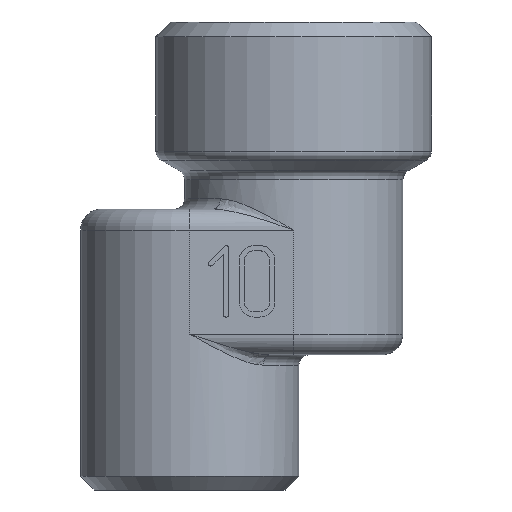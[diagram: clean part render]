
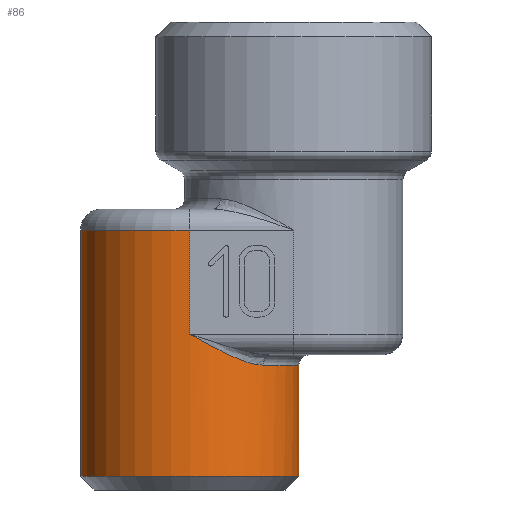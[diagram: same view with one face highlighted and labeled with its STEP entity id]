
A CAD part, left-side view. The second image highlights one B-rep face of the part: STEP entity #86.
In plain terms, the highlighted cylindrical face has radius 10.5 mm (diameter 21 mm), a full revolution.
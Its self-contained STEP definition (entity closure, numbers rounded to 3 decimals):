
#86=ADVANCED_FACE('',(#423,#425),#427,.T.);
#423=FACE_BOUND('',#424,.T.);
#424=EDGE_LOOP('',(#1753,#1754,#1755,#1756,#1757,#1758));
#425=FACE_OUTER_BOUND('',#426,.T.);
#426=EDGE_LOOP('',(#1759));
#427=CYLINDRICAL_SURFACE('',#428,10.5);
#428=AXIS2_PLACEMENT_3D('',#429,#430,#431);
#429=CARTESIAN_POINT('',(0.,0.,0.));
#430=DIRECTION('',(0.,0.,1.));
#431=DIRECTION('',(-1.,0.,0.));
#1753=ORIENTED_EDGE('',*,*,#2174,.F.);
#1754=ORIENTED_EDGE('',*,*,#2175,.F.);
#1755=ORIENTED_EDGE('',*,*,#2176,.F.);
#1756=ORIENTED_EDGE('',*,*,#2177,.F.);
#1757=ORIENTED_EDGE('',*,*,#2063,.T.);
#1758=ORIENTED_EDGE('',*,*,#2178,.F.);
#1759=ORIENTED_EDGE('',*,*,#2179,.T.);
#2063=EDGE_CURVE('',#2327,#2324,#2328,.T.);
#2174=EDGE_CURVE('',#2508,#2509,#2510,.T.);
#2175=EDGE_CURVE('',#2511,#2508,#2512,.T.);
#2176=EDGE_CURVE('',#2513,#2511,#2514,.T.);
#2177=EDGE_CURVE('',#2327,#2513,#2515,.F.);
#2178=EDGE_CURVE('',#2509,#2324,#2516,.T.);
#2179=EDGE_CURVE('',#2517,#2517,#2518,.T.);
#2324=VERTEX_POINT('',#2762);
#2327=VERTEX_POINT('',#2767);
#2328=LINE('',#2768,#2769);
#2508=VERTEX_POINT('',#3184);
#2509=VERTEX_POINT('',#3185);
#2510=LINE('',#3186,#3187);
#2511=VERTEX_POINT('',#3189);
#2512=B_SPLINE_CURVE_WITH_KNOTS('',3,
(#3190,#3191,#3192,#3193,#3194,#3195,#3196,#3197,#3198,#3199,#3200,#3201,#3202,#3203,
#3204,#3205,#3206),
.UNSPECIFIED.,.F.,.F.,
(4,1,1,1,1,1,1,1,1,1,1,1,1,1,4),
(0.,0.068,0.129,0.184,0.245,0.31,
0.381,0.455,0.535,0.614,0.7,
0.78,0.863,0.934,1.),
.UNSPECIFIED.);
#2513=VERTEX_POINT('',#3207);
#2514=CIRCLE('',#3208,10.5);
#2515=B_SPLINE_CURVE_WITH_KNOTS('',3,
(#3212,#3213,#3214,#3215,#3216,#3217,#3218,#3219,#3220,#3221,#3222,#3223,#3224,#3225,
#3226,#3227,#3228),
.UNSPECIFIED.,.F.,.F.,
(4,1,1,1,1,1,1,1,1,1,1,1,1,1,4),
(0.,0.068,0.129,0.184,0.245,0.31,
0.381,0.455,0.535,0.614,0.7,
0.78,0.863,0.934,1.),
.UNSPECIFIED.);
#2516=CIRCLE('',#3229,10.5);
#2517=VERTEX_POINT('',#3233);
#2518=CIRCLE('',#3234,10.5);
#2762=CARTESIAN_POINT('',(-10.5,0.,25.));
#2767=CARTESIAN_POINT('',(-10.5,0.,15.));
#2768=CARTESIAN_POINT('',(-10.5,0.,15.));
#2769=VECTOR('',#2770,1.);
#2770=DIRECTION('',(0.,0.,1.));
#3184=CARTESIAN_POINT('',(10.5,0.,15.));
#3185=CARTESIAN_POINT('',(10.5,0.,25.));
#3186=CARTESIAN_POINT('',(10.5,0.,15.));
#3187=VECTOR('',#3188,1.);
#3188=DIRECTION('',(0.,0.,1.));
#3189=CARTESIAN_POINT('',(7.761,-7.072,12.));
#3190=CARTESIAN_POINT('',(7.761,-7.072,12.));
#3191=CARTESIAN_POINT('',(7.893,-6.927,11.999));
#3192=CARTESIAN_POINT('',(8.133,-6.648,12.02));
#3193=CARTESIAN_POINT('',(8.451,-6.238,12.091));
#3194=CARTESIAN_POINT('',(8.732,-5.837,12.189));
#3195=CARTESIAN_POINT('',(8.998,-5.42,12.317));
#3196=CARTESIAN_POINT('',(9.259,-4.961,12.481));
#3197=CARTESIAN_POINT('',(9.508,-4.466,12.681));
#3198=CARTESIAN_POINT('',(9.742,-3.933,12.918));
#3199=CARTESIAN_POINT('',(9.948,-3.377,13.183));
#3200=CARTESIAN_POINT('',(10.129,-2.789,13.478));
#3201=CARTESIAN_POINT('',(10.274,-2.198,13.789));
#3202=CARTESIAN_POINT('',(10.384,-1.596,14.114));
#3203=CARTESIAN_POINT('',(10.455,-1.028,14.426));
#3204=CARTESIAN_POINT('',(10.492,-0.494,14.723));
#3205=CARTESIAN_POINT('',(10.5,-0.161,14.91));
#3206=CARTESIAN_POINT('',(10.5,0.,15.));
#3207=CARTESIAN_POINT('',(-7.761,-7.072,12.));
#3208=AXIS2_PLACEMENT_3D('',#3209,#3210,#3211);
#3209=CARTESIAN_POINT('',(0.,0.,12.));
#3210=DIRECTION('',(0.,0.,1.));
#3211=DIRECTION('',(-0.739,-0.674,0.));
#3212=CARTESIAN_POINT('',(-7.761,-7.072,12.));
#3213=CARTESIAN_POINT('',(-7.893,-6.927,11.999));
#3214=CARTESIAN_POINT('',(-8.133,-6.648,12.02));
#3215=CARTESIAN_POINT('',(-8.451,-6.238,12.091));
#3216=CARTESIAN_POINT('',(-8.732,-5.837,12.189));
#3217=CARTESIAN_POINT('',(-8.998,-5.42,12.317));
#3218=CARTESIAN_POINT('',(-9.259,-4.961,12.481));
#3219=CARTESIAN_POINT('',(-9.508,-4.466,12.681));
#3220=CARTESIAN_POINT('',(-9.742,-3.933,12.918));
#3221=CARTESIAN_POINT('',(-9.948,-3.377,13.183));
#3222=CARTESIAN_POINT('',(-10.129,-2.789,13.478));
#3223=CARTESIAN_POINT('',(-10.274,-2.198,13.789));
#3224=CARTESIAN_POINT('',(-10.384,-1.596,14.114));
#3225=CARTESIAN_POINT('',(-10.455,-1.028,14.426));
#3226=CARTESIAN_POINT('',(-10.492,-0.494,14.723));
#3227=CARTESIAN_POINT('',(-10.5,-0.161,14.91));
#3228=CARTESIAN_POINT('',(-10.5,0.,15.));
#3229=AXIS2_PLACEMENT_3D('',#3230,#3231,#3232);
#3230=CARTESIAN_POINT('',(0.,0.,25.));
#3231=DIRECTION('',(0.,0.,1.));
#3232=DIRECTION('',(1.,0.,0.));
#3233=CARTESIAN_POINT('',(-10.5,0.,1.3));
#3234=AXIS2_PLACEMENT_3D('',#3235,#3236,#3237);
#3235=CARTESIAN_POINT('',(0.,0.,1.3));
#3236=DIRECTION('',(0.,0.,1.));
#3237=DIRECTION('',(-1.,0.,0.));
